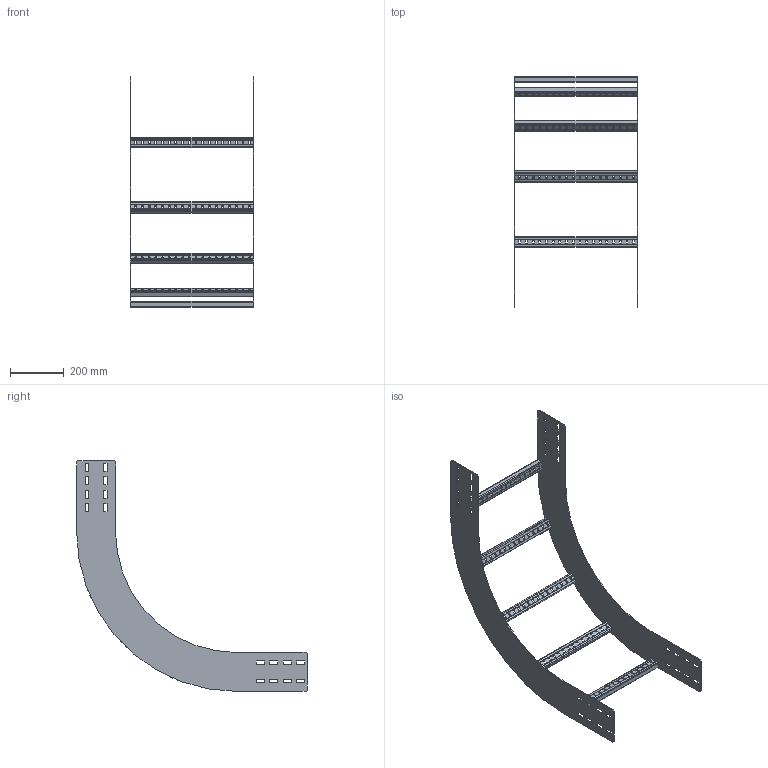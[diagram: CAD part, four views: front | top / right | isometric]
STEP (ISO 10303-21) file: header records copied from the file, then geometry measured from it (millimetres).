
FILE_DESCRIPTION(('Creo Elements/Direct Modeling STEP Export'),'2;1');
FILE_NAME('WPIR15-45-90-45-HDG.stp','2016-11-10T11:16:22',(''),(''),'PTC Creo Elements/Direct Modeling STEP processor for AP214 (Solid Model)','PTC Creo Elements/Direct Modeling 19.0C 15-Aug-2015 (C) Parametric Technology GmbH','');
FILE_SCHEMA(('AUTOMOTIVE_DESIGN { 1 0 10303 214 1 1 1 1 }'));
Length unit declared in the file: millimetre
Products named in the file (3): WPIBG150_450.1; WPHBS45; WPIR15-45-90-45
Assembly tree (7 placements, depth 2):
  WPIR15-45-90-45
    WPHBS45  x5
    WPIBG150_450.1  x2
Bounding box: 461 x 860 x 860 mm (x, y, z)
Volume: 1473756.8 mm3; surface area: 1243548.7 mm2
Topology: 7 solids, 7 shells, 716 faces, 2106 edges, 1404 vertices
Faces by surface type: plane 442, cylinder 274
Entity records: 6540 total; most frequent: CARTESIAN_POINT 1127, ORIENTED_EDGE 1116, DIRECTION 1064, EDGE_CURVE 558, VECTOR 446, LINE 446, VERTEX_POINT 372, AXIS2_PLACEMENT_3D 309
